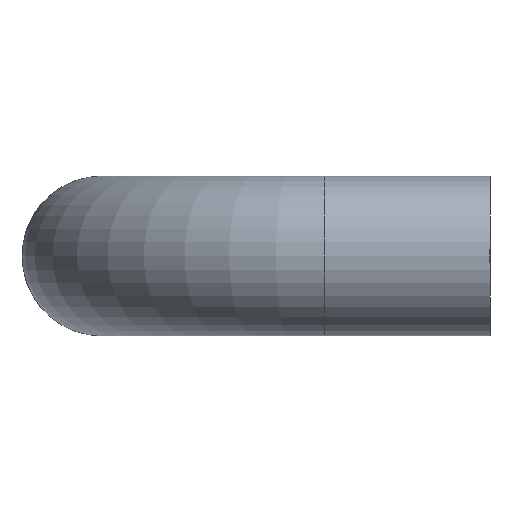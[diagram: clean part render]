
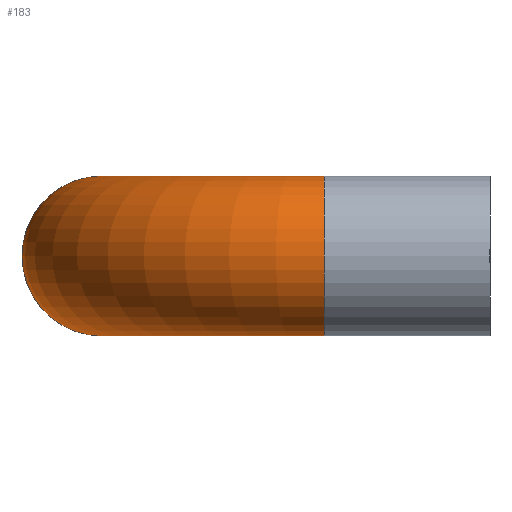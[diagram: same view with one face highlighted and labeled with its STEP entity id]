
A CAD part, left-side view. The second image highlights one B-rep face of the part: STEP entity #183.
In plain terms, the highlighted toroidal (fillet/blend) face has major radius 75 mm and minor radius 27 mm.
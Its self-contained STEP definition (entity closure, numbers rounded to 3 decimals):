
#152=CARTESIAN_POINT('',(0.,102.0,0.));
#153=VERTEX_POINT('',#152);
#154=CARTESIAN_POINT('',(0.,75.0,0.0));
#155=DIRECTION('',(-1.0,0.0,0.0));
#156=DIRECTION('',(0.0,-1.0,0.0));
#157=AXIS2_PLACEMENT_3D('',#154,#155,#156);
#158=CIRCLE('',#157,27.0);
#159=EDGE_CURVE('',#153,#153,#158,.T.);
#164=CARTESIAN_POINT('',(0.0,0.0,0.0));
#165=DIRECTION('',(0.0,0.0,-1.0));
#166=DIRECTION('',(-1.0,0.0,0.0));
#167=AXIS2_PLACEMENT_3D('',#164,#165,#166);
#168=TOROIDAL_SURFACE('',#167,75.0,27.0);
#169=ORIENTED_EDGE('',*,*,#159,.T.);
#170=EDGE_LOOP('',(#169));
#171=FACE_OUTER_BOUND('',#170,.T.);
#172=CARTESIAN_POINT('',(-102.0,0.,0.));
#173=VERTEX_POINT('',#172);
#174=CARTESIAN_POINT('',(-75.0,0.,0.0));
#175=DIRECTION('',(0.0,-1.0,0.0));
#176=DIRECTION('',(1.0,0.0,0.0));
#177=AXIS2_PLACEMENT_3D('',#174,#175,#176);
#178=CIRCLE('',#177,27.0);
#179=EDGE_CURVE('',#173,#173,#178,.T.);
#180=ORIENTED_EDGE('',*,*,#179,.F.);
#181=EDGE_LOOP('',(#180));
#182=FACE_BOUND('',#181,.T.);
#183=ADVANCED_FACE('',(#171,#182),#168,.T.);
